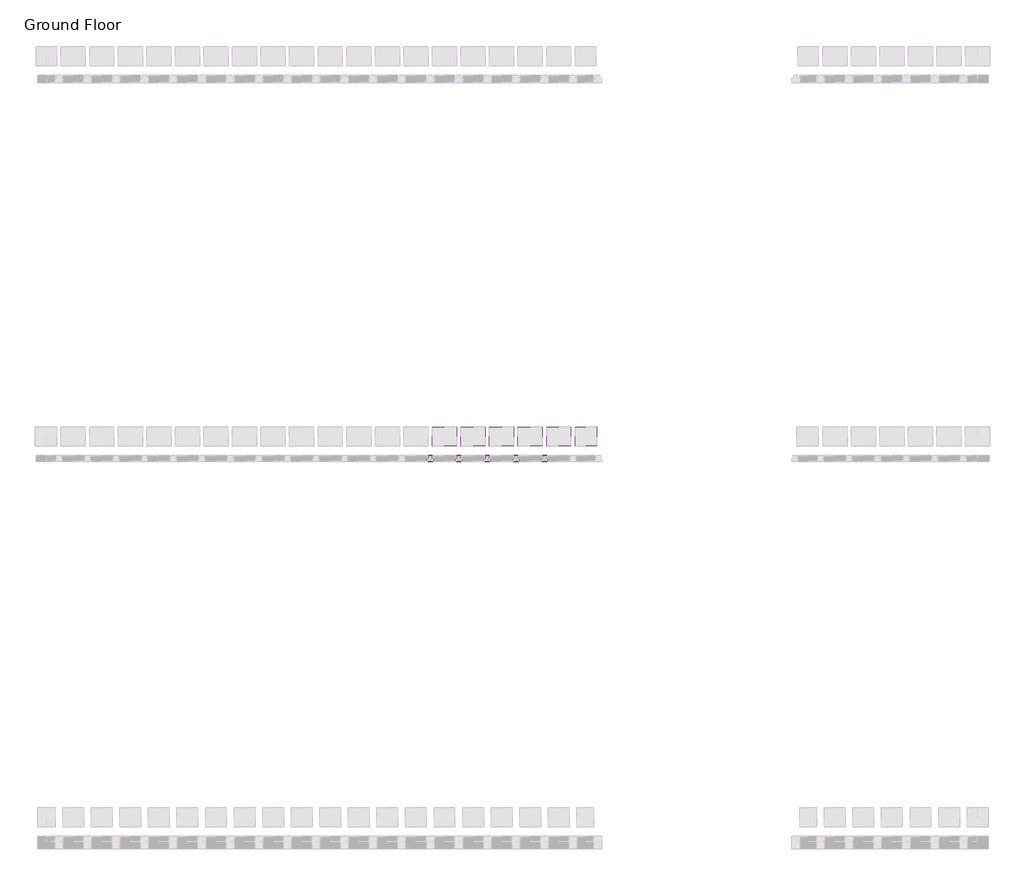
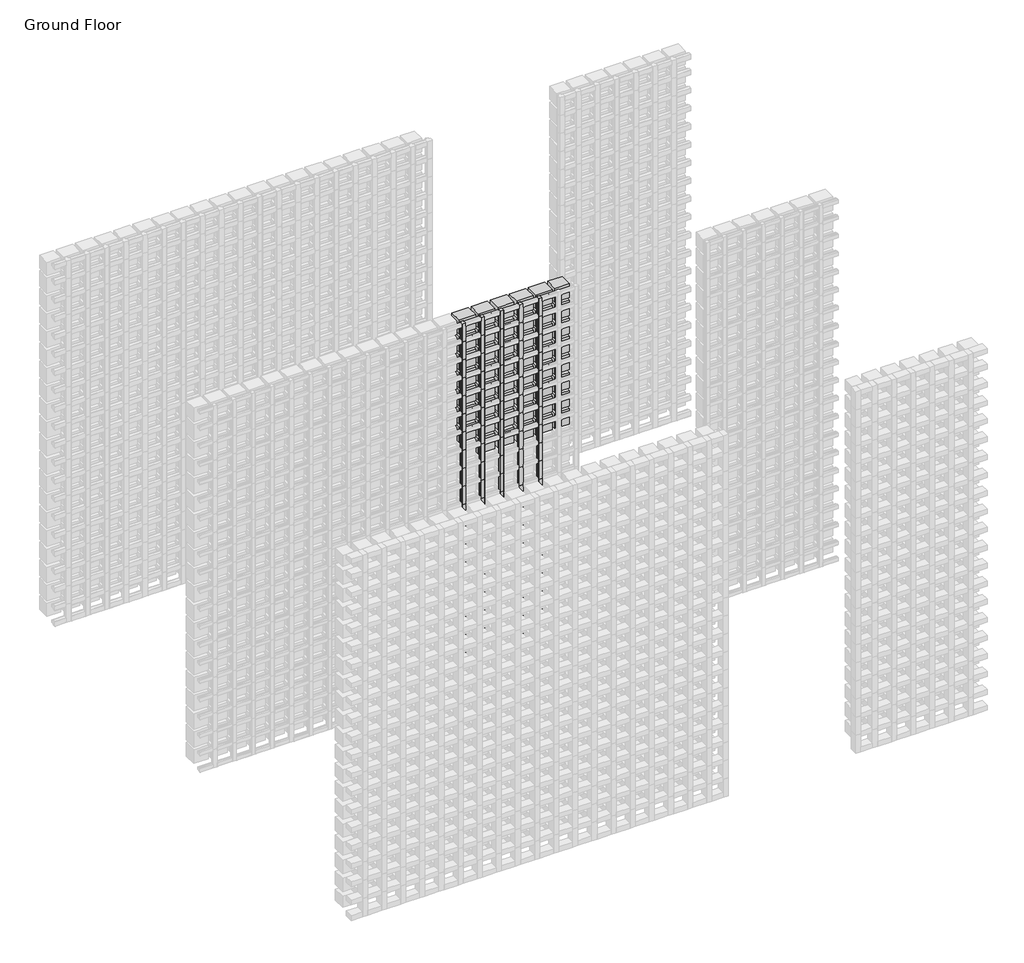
# One storey, part 133 of 350: 95 members, 47 plates.
"""IFC4 building model written with IfcOpenShell, lengths in millimetres."""

from ifc_helpers import new_model, si_unit, origin, place, context, project, spatial, transform, mapped, element, save
from components import rectangular_mullion_f1976eb1, empty_system_panel_empty_5a3607ba, empty_system_panel_empty_babc703c, empty_system_panel_empty_56815599, empty_system_panel_empty_50ac6329

model = new_model("IFC4")

# Units and contexts
model_context = context("Model", 3, world=origin())
ifc_project = project(units=[si_unit("LENGTHUNIT", "METRE", prefix="MILLI")], contexts=[model_context])

# Site, building, storey
site = spatial("IfcSite", under=ifc_project)
building = spatial("IfcBuilding", under=site)
storey = spatial("IfcBuildingStorey", under=building, Name="Ground Floor", Elevation=0.0)

# Members
placement = place(None, origin())
rectangular_mullion_shape = rectangular_mullion_f1976eb1(model_context)
element("IfcMember", 1, ObjectType="Rectangular Mullion : Batten_Timber_Modinex_Austratus_Grid_Fin_30x30_Blackbutt", at=placement, inside=storey, context=model_context, shape_type="MappedRepresentation", body=[
    mapped(rectangular_mullion_shape, transform((8016.4361642, 42968.2978302, 150.0), x_axis=(1.0, 0.0, 0.0), y_axis=(0.0, -1.0, 0.0), z_axis=(0.0, 0.0, -1.0))),
])
element("IfcMember", 2, ObjectType="Rectangular Mullion : Batten_Timber_Modinex_Austratus_Grid_Fin_30x30_Blackbutt", at=placement, inside=storey, context=model_context, shape_type="MappedRepresentation", body=[
    mapped(rectangular_mullion_shape, transform((8016.4361642, 42968.2978302, 300.0), x_axis=(1.0, 0.0, 0.0), y_axis=(0.0, -1.0, 0.0), z_axis=(0.0, 0.0, -1.0))),
])
element("IfcMember", 3, ObjectType="Rectangular Mullion : Batten_Timber_Modinex_Austratus_Grid_Fin_30x30_Blackbutt", at=placement, inside=storey, context=model_context, shape_type="MappedRepresentation", body=[
    mapped(rectangular_mullion_shape, transform((8016.4361642, 42968.2978302, 450.0), x_axis=(1.0, 0.0, 0.0), y_axis=(0.0, -1.0, 0.0), z_axis=(0.0, 0.0, -1.0))),
])
element("IfcMember", 4, ObjectType="Rectangular Mullion : Batten_Timber_Modinex_Austratus_Grid_Fin_30x30_Blackbutt", at=placement, inside=storey, context=model_context, shape_type="MappedRepresentation", body=[
    mapped(rectangular_mullion_shape, transform((8016.4361642, 42968.2978302, 600.0), x_axis=(1.0, 0.0, 0.0), y_axis=(0.0, -1.0, 0.0), z_axis=(0.0, 0.0, -1.0))),
])
element("IfcMember", 5, ObjectType="Rectangular Mullion : Batten_Timber_Modinex_Austratus_Grid_Fin_30x30_Blackbutt", at=placement, inside=storey, context=model_context, shape_type="MappedRepresentation", body=[
    mapped(rectangular_mullion_shape, transform((8016.4361642, 42968.2978302, 750.0), x_axis=(1.0, 0.0, 0.0), y_axis=(0.0, -1.0, 0.0), z_axis=(0.0, 0.0, -1.0))),
])
element("IfcMember", 6, ObjectType="Rectangular Mullion : Batten_Timber_Modinex_Austratus_Grid_Fin_30x30_Blackbutt", at=placement, inside=storey, context=model_context, shape_type="MappedRepresentation", body=[
    mapped(rectangular_mullion_shape, transform((8016.4361642, 42968.2978302, 900.0), x_axis=(1.0, 0.0, 0.0), y_axis=(0.0, -1.0, 0.0), z_axis=(0.0, 0.0, -1.0))),
])
element("IfcMember", 7, ObjectType="Rectangular Mullion : Batten_Timber_Modinex_Austratus_Grid_Fin_30x30_Blackbutt", at=placement, inside=storey, context=model_context, shape_type="MappedRepresentation", body=[
    mapped(rectangular_mullion_shape, transform((8016.4361642, 42968.2978302, 1050.0), x_axis=(1.0, 0.0, 0.0), y_axis=(0.0, -1.0, 0.0), z_axis=(0.0, 0.0, -1.0))),
])
element("IfcMember", 8, ObjectType="Rectangular Mullion : Batten_Timber_Modinex_Austratus_Grid_Fin_30x30_Blackbutt", at=placement, inside=storey, context=model_context, shape_type="MappedRepresentation", body=[
    mapped(rectangular_mullion_shape, transform((8016.4361642, 42968.2978302, 1200.0), x_axis=(1.0, 0.0, 0.0), y_axis=(0.0, -1.0, 0.0), z_axis=(0.0, 0.0, -1.0))),
])
element("IfcMember", 9, ObjectType="Rectangular Mullion : Batten_Timber_Modinex_Austratus_Grid_Fin_30x30_Blackbutt", at=placement, inside=storey, context=model_context, shape_type="MappedRepresentation", body=[
    mapped(rectangular_mullion_shape, transform((8016.4361642, 42968.2978302, 1350.0), x_axis=(1.0, 0.0, 0.0), y_axis=(0.0, -1.0, 0.0), z_axis=(0.0, 0.0, -1.0))),
])
element("IfcMember", 10, ObjectType="Rectangular Mullion : Batten_Timber_Modinex_Austratus_Grid_Fin_30x30_Blackbutt", at=placement, inside=storey, context=model_context, shape_type="MappedRepresentation", body=[
    mapped(rectangular_mullion_shape, transform((8016.4361642, 42968.2978302, 1500.0), x_axis=(1.0, 0.0, 0.0), y_axis=(0.0, -1.0, 0.0), z_axis=(0.0, 0.0, -1.0))),
])
element("IfcMember", 11, ObjectType="Rectangular Mullion : Batten_Timber_Modinex_Austratus_Grid_Fin_30x30_Blackbutt", at=placement, inside=storey, context=model_context, shape_type="MappedRepresentation", body=[
    mapped(rectangular_mullion_shape, transform((8016.4361642, 42968.2978302, 1650.0), x_axis=(1.0, 0.0, 0.0), y_axis=(0.0, -1.0, 0.0), z_axis=(0.0, 0.0, -1.0))),
])
element("IfcMember", 12, ObjectType="Rectangular Mullion : Batten_Timber_Modinex_Austratus_Grid_Fin_30x30_Blackbutt", at=placement, inside=storey, context=model_context, shape_type="MappedRepresentation", body=[
    mapped(rectangular_mullion_shape, transform((8016.4361642, 42968.2978302, 1800.0), x_axis=(1.0, 0.0, 0.0), y_axis=(0.0, -1.0, 0.0), z_axis=(0.0, 0.0, -1.0))),
])
element("IfcMember", 13, ObjectType="Rectangular Mullion : Batten_Timber_Modinex_Austratus_Grid_Fin_30x30_Blackbutt", at=placement, inside=storey, context=model_context, shape_type="MappedRepresentation", body=[
    mapped(rectangular_mullion_shape, transform((8016.4361642, 42968.2978302, 1950.0), x_axis=(1.0, 0.0, 0.0), y_axis=(0.0, -1.0, 0.0), z_axis=(0.0, 0.0, -1.0))),
])
element("IfcMember", 14, ObjectType="Rectangular Mullion : Batten_Timber_Modinex_Austratus_Grid_Fin_30x30_Blackbutt", at=placement, inside=storey, context=model_context, shape_type="MappedRepresentation", body=[
    mapped(rectangular_mullion_shape, transform((8016.4361642, 42968.2978302, 2100.0), x_axis=(1.0, 0.0, 0.0), y_axis=(0.0, -1.0, 0.0), z_axis=(0.0, 0.0, -1.0))),
])
element("IfcMember", 15, ObjectType="Rectangular Mullion : Batten_Timber_Modinex_Austratus_Grid_Fin_30x30_Blackbutt", at=placement, inside=storey, context=model_context, shape_type="MappedRepresentation", body=[
    mapped(rectangular_mullion_shape, transform((8016.4361642, 42968.2978302, 2250.0), x_axis=(1.0, 0.0, 0.0), y_axis=(0.0, -1.0, 0.0), z_axis=(0.0, 0.0, -1.0))),
])
element("IfcMember", 16, ObjectType="Rectangular Mullion : Batten_Timber_Modinex_Austratus_Grid_Fin_30x30_Blackbutt", at=placement, inside=storey, context=model_context, shape_type="MappedRepresentation", body=[
    mapped(rectangular_mullion_shape, transform((8016.4361642, 42968.2978302, 2400.0), x_axis=(1.0, 0.0, 0.0), y_axis=(0.0, -1.0, 0.0), z_axis=(0.0, 0.0, -1.0))),
])
element("IfcMember", 17, ObjectType="Rectangular Mullion : Batten_Timber_Modinex_Austratus_Grid_Fin_30x30_Blackbutt", at=placement, inside=storey, context=model_context, shape_type="MappedRepresentation", body=[
    mapped(rectangular_mullion_shape, transform((8016.4361642, 42968.2978302, 2550.0), x_axis=(1.0, 0.0, 0.0), y_axis=(0.0, -1.0, 0.0), z_axis=(0.0, 0.0, -1.0))),
])
element("IfcMember", 18, ObjectType="Rectangular Mullion : Batten_Timber_Modinex_Austratus_Grid_Fin_30x30_Blackbutt", at=placement, inside=storey, context=model_context, shape_type="MappedRepresentation", body=[
    mapped(rectangular_mullion_shape, transform((8016.4361642, 42968.2978302, 2700.0), x_axis=(1.0, 0.0, 0.0), y_axis=(0.0, -1.0, 0.0), z_axis=(0.0, 0.0, -1.0))),
])
element("IfcMember", 19, ObjectType="Rectangular Mullion : Batten_Timber_Modinex_Austratus_Grid_Fin_30x30_Blackbutt", at=placement, inside=storey, context=model_context, shape_type="MappedRepresentation", body=[
    mapped(rectangular_mullion_shape, transform((8166.4361642, 42968.2978302, 150.0), x_axis=(1.0, 0.0, 0.0), y_axis=(0.0, -1.0, 0.0), z_axis=(0.0, 0.0, -1.0))),
])
element("IfcMember", 20, ObjectType="Rectangular Mullion : Batten_Timber_Modinex_Austratus_Grid_Fin_30x30_Blackbutt", at=placement, inside=storey, context=model_context, shape_type="MappedRepresentation", body=[
    mapped(rectangular_mullion_shape, transform((8166.4361642, 42968.2978302, 300.0), x_axis=(1.0, 0.0, 0.0), y_axis=(0.0, -1.0, 0.0), z_axis=(0.0, 0.0, -1.0))),
])
element("IfcMember", 21, ObjectType="Rectangular Mullion : Batten_Timber_Modinex_Austratus_Grid_Fin_30x30_Blackbutt", at=placement, inside=storey, context=model_context, shape_type="MappedRepresentation", body=[
    mapped(rectangular_mullion_shape, transform((8166.4361642, 42968.2978302, 450.0), x_axis=(1.0, 0.0, 0.0), y_axis=(0.0, -1.0, 0.0), z_axis=(0.0, 0.0, -1.0))),
])
element("IfcMember", 22, ObjectType="Rectangular Mullion : Batten_Timber_Modinex_Austratus_Grid_Fin_30x30_Blackbutt", at=placement, inside=storey, context=model_context, shape_type="MappedRepresentation", body=[
    mapped(rectangular_mullion_shape, transform((8166.4361642, 42968.2978302, 600.0), x_axis=(1.0, 0.0, 0.0), y_axis=(0.0, -1.0, 0.0), z_axis=(0.0, 0.0, -1.0))),
])
element("IfcMember", 23, ObjectType="Rectangular Mullion : Batten_Timber_Modinex_Austratus_Grid_Fin_30x30_Blackbutt", at=placement, inside=storey, context=model_context, shape_type="MappedRepresentation", body=[
    mapped(rectangular_mullion_shape, transform((8166.4361642, 42968.2978302, 750.0), x_axis=(1.0, 0.0, 0.0), y_axis=(0.0, -1.0, 0.0), z_axis=(0.0, 0.0, -1.0))),
])
element("IfcMember", 24, ObjectType="Rectangular Mullion : Batten_Timber_Modinex_Austratus_Grid_Fin_30x30_Blackbutt", at=placement, inside=storey, context=model_context, shape_type="MappedRepresentation", body=[
    mapped(rectangular_mullion_shape, transform((8166.4361642, 42968.2978302, 900.0), x_axis=(1.0, 0.0, 0.0), y_axis=(0.0, -1.0, 0.0), z_axis=(0.0, 0.0, -1.0))),
])
element("IfcMember", 25, ObjectType="Rectangular Mullion : Batten_Timber_Modinex_Austratus_Grid_Fin_30x30_Blackbutt", at=placement, inside=storey, context=model_context, shape_type="MappedRepresentation", body=[
    mapped(rectangular_mullion_shape, transform((8166.4361642, 42968.2978302, 1050.0), x_axis=(1.0, 0.0, 0.0), y_axis=(0.0, -1.0, 0.0), z_axis=(0.0, 0.0, -1.0))),
])
element("IfcMember", 26, ObjectType="Rectangular Mullion : Batten_Timber_Modinex_Austratus_Grid_Fin_30x30_Blackbutt", at=placement, inside=storey, context=model_context, shape_type="MappedRepresentation", body=[
    mapped(rectangular_mullion_shape, transform((8166.4361642, 42968.2978302, 1200.0), x_axis=(1.0, 0.0, 0.0), y_axis=(0.0, -1.0, 0.0), z_axis=(0.0, 0.0, -1.0))),
])
element("IfcMember", 27, ObjectType="Rectangular Mullion : Batten_Timber_Modinex_Austratus_Grid_Fin_30x30_Blackbutt", at=placement, inside=storey, context=model_context, shape_type="MappedRepresentation", body=[
    mapped(rectangular_mullion_shape, transform((8166.4361642, 42968.2978302, 1350.0), x_axis=(1.0, 0.0, 0.0), y_axis=(0.0, -1.0, 0.0), z_axis=(0.0, 0.0, -1.0))),
])
element("IfcMember", 28, ObjectType="Rectangular Mullion : Batten_Timber_Modinex_Austratus_Grid_Fin_30x30_Blackbutt", at=placement, inside=storey, context=model_context, shape_type="MappedRepresentation", body=[
    mapped(rectangular_mullion_shape, transform((8166.4361642, 42968.2978302, 1500.0), x_axis=(1.0, 0.0, 0.0), y_axis=(0.0, -1.0, 0.0), z_axis=(0.0, 0.0, -1.0))),
])
element("IfcMember", 29, ObjectType="Rectangular Mullion : Batten_Timber_Modinex_Austratus_Grid_Fin_30x30_Blackbutt", at=placement, inside=storey, context=model_context, shape_type="MappedRepresentation", body=[
    mapped(rectangular_mullion_shape, transform((8166.4361642, 42968.2978302, 1650.0), x_axis=(1.0, 0.0, 0.0), y_axis=(0.0, -1.0, 0.0), z_axis=(0.0, 0.0, -1.0))),
])
element("IfcMember", 30, ObjectType="Rectangular Mullion : Batten_Timber_Modinex_Austratus_Grid_Fin_30x30_Blackbutt", at=placement, inside=storey, context=model_context, shape_type="MappedRepresentation", body=[
    mapped(rectangular_mullion_shape, transform((8166.4361642, 42968.2978302, 1800.0), x_axis=(1.0, 0.0, 0.0), y_axis=(0.0, -1.0, 0.0), z_axis=(0.0, 0.0, -1.0))),
])
element("IfcMember", 31, ObjectType="Rectangular Mullion : Batten_Timber_Modinex_Austratus_Grid_Fin_30x30_Blackbutt", at=placement, inside=storey, context=model_context, shape_type="MappedRepresentation", body=[
    mapped(rectangular_mullion_shape, transform((8166.4361642, 42968.2978302, 1950.0), x_axis=(1.0, 0.0, 0.0), y_axis=(0.0, -1.0, 0.0), z_axis=(0.0, 0.0, -1.0))),
])
element("IfcMember", 32, ObjectType="Rectangular Mullion : Batten_Timber_Modinex_Austratus_Grid_Fin_30x30_Blackbutt", at=placement, inside=storey, context=model_context, shape_type="MappedRepresentation", body=[
    mapped(rectangular_mullion_shape, transform((8166.4361642, 42968.2978302, 2100.0), x_axis=(1.0, 0.0, 0.0), y_axis=(0.0, -1.0, 0.0), z_axis=(0.0, 0.0, -1.0))),
])
element("IfcMember", 33, ObjectType="Rectangular Mullion : Batten_Timber_Modinex_Austratus_Grid_Fin_30x30_Blackbutt", at=placement, inside=storey, context=model_context, shape_type="MappedRepresentation", body=[
    mapped(rectangular_mullion_shape, transform((8166.4361642, 42968.2978302, 2250.0), x_axis=(1.0, 0.0, 0.0), y_axis=(0.0, -1.0, 0.0), z_axis=(0.0, 0.0, -1.0))),
])
element("IfcMember", 34, ObjectType="Rectangular Mullion : Batten_Timber_Modinex_Austratus_Grid_Fin_30x30_Blackbutt", at=placement, inside=storey, context=model_context, shape_type="MappedRepresentation", body=[
    mapped(rectangular_mullion_shape, transform((8166.4361642, 42968.2978302, 2400.0), x_axis=(1.0, 0.0, 0.0), y_axis=(0.0, -1.0, 0.0), z_axis=(0.0, 0.0, -1.0))),
])
element("IfcMember", 35, ObjectType="Rectangular Mullion : Batten_Timber_Modinex_Austratus_Grid_Fin_30x30_Blackbutt", at=placement, inside=storey, context=model_context, shape_type="MappedRepresentation", body=[
    mapped(rectangular_mullion_shape, transform((8166.4361642, 42968.2978302, 2550.0), x_axis=(1.0, 0.0, 0.0), y_axis=(0.0, -1.0, 0.0), z_axis=(0.0, 0.0, -1.0))),
])
element("IfcMember", 36, ObjectType="Rectangular Mullion : Batten_Timber_Modinex_Austratus_Grid_Fin_30x30_Blackbutt", at=placement, inside=storey, context=model_context, shape_type="MappedRepresentation", body=[
    mapped(rectangular_mullion_shape, transform((8166.4361642, 42968.2978302, 2700.0), x_axis=(1.0, 0.0, 0.0), y_axis=(0.0, -1.0, 0.0), z_axis=(0.0, 0.0, -1.0))),
])
element("IfcMember", 37, ObjectType="Rectangular Mullion : Batten_Timber_Modinex_Austratus_Grid_Fin_30x30_Blackbutt", at=placement, inside=storey, context=model_context, shape_type="MappedRepresentation", body=[
    mapped(rectangular_mullion_shape, transform((8316.4361642, 42968.2978302, 150.0), x_axis=(1.0, 0.0, 0.0), y_axis=(0.0, -1.0, 0.0), z_axis=(0.0, 0.0, -1.0))),
])
element("IfcMember", 38, ObjectType="Rectangular Mullion : Batten_Timber_Modinex_Austratus_Grid_Fin_30x30_Blackbutt", at=placement, inside=storey, context=model_context, shape_type="MappedRepresentation", body=[
    mapped(rectangular_mullion_shape, transform((8316.4361642, 42968.2978302, 300.0), x_axis=(1.0, 0.0, 0.0), y_axis=(0.0, -1.0, 0.0), z_axis=(0.0, 0.0, -1.0))),
])
element("IfcMember", 39, ObjectType="Rectangular Mullion : Batten_Timber_Modinex_Austratus_Grid_Fin_30x30_Blackbutt", at=placement, inside=storey, context=model_context, shape_type="MappedRepresentation", body=[
    mapped(rectangular_mullion_shape, transform((8316.4361642, 42968.2978302, 450.0), x_axis=(1.0, 0.0, 0.0), y_axis=(0.0, -1.0, 0.0), z_axis=(0.0, 0.0, -1.0))),
])
element("IfcMember", 40, ObjectType="Rectangular Mullion : Batten_Timber_Modinex_Austratus_Grid_Fin_30x30_Blackbutt", at=placement, inside=storey, context=model_context, shape_type="MappedRepresentation", body=[
    mapped(rectangular_mullion_shape, transform((8316.4361642, 42968.2978302, 600.0), x_axis=(1.0, 0.0, 0.0), y_axis=(0.0, -1.0, 0.0), z_axis=(0.0, 0.0, -1.0))),
])
element("IfcMember", 41, ObjectType="Rectangular Mullion : Batten_Timber_Modinex_Austratus_Grid_Fin_30x30_Blackbutt", at=placement, inside=storey, context=model_context, shape_type="MappedRepresentation", body=[
    mapped(rectangular_mullion_shape, transform((8316.4361642, 42968.2978302, 750.0), x_axis=(1.0, 0.0, 0.0), y_axis=(0.0, -1.0, 0.0), z_axis=(0.0, 0.0, -1.0))),
])
element("IfcMember", 42, ObjectType="Rectangular Mullion : Batten_Timber_Modinex_Austratus_Grid_Fin_30x30_Blackbutt", at=placement, inside=storey, context=model_context, shape_type="MappedRepresentation", body=[
    mapped(rectangular_mullion_shape, transform((8316.4361642, 42968.2978302, 900.0), x_axis=(1.0, 0.0, 0.0), y_axis=(0.0, -1.0, 0.0), z_axis=(0.0, 0.0, -1.0))),
])
element("IfcMember", 43, ObjectType="Rectangular Mullion : Batten_Timber_Modinex_Austratus_Grid_Fin_30x30_Blackbutt", at=placement, inside=storey, context=model_context, shape_type="MappedRepresentation", body=[
    mapped(rectangular_mullion_shape, transform((8316.4361642, 42968.2978302, 1050.0), x_axis=(1.0, 0.0, 0.0), y_axis=(0.0, -1.0, 0.0), z_axis=(0.0, 0.0, -1.0))),
])
element("IfcMember", 44, ObjectType="Rectangular Mullion : Batten_Timber_Modinex_Austratus_Grid_Fin_30x30_Blackbutt", at=placement, inside=storey, context=model_context, shape_type="MappedRepresentation", body=[
    mapped(rectangular_mullion_shape, transform((8316.4361642, 42968.2978302, 1200.0), x_axis=(1.0, 0.0, 0.0), y_axis=(0.0, -1.0, 0.0), z_axis=(0.0, 0.0, -1.0))),
])
element("IfcMember", 45, ObjectType="Rectangular Mullion : Batten_Timber_Modinex_Austratus_Grid_Fin_30x30_Blackbutt", at=placement, inside=storey, context=model_context, shape_type="MappedRepresentation", body=[
    mapped(rectangular_mullion_shape, transform((8316.4361642, 42968.2978302, 1350.0), x_axis=(1.0, 0.0, 0.0), y_axis=(0.0, -1.0, 0.0), z_axis=(0.0, 0.0, -1.0))),
])
element("IfcMember", 46, ObjectType="Rectangular Mullion : Batten_Timber_Modinex_Austratus_Grid_Fin_30x30_Blackbutt", at=placement, inside=storey, context=model_context, shape_type="MappedRepresentation", body=[
    mapped(rectangular_mullion_shape, transform((8316.4361642, 42968.2978302, 1500.0), x_axis=(1.0, 0.0, 0.0), y_axis=(0.0, -1.0, 0.0), z_axis=(0.0, 0.0, -1.0))),
])
element("IfcMember", 47, ObjectType="Rectangular Mullion : Batten_Timber_Modinex_Austratus_Grid_Fin_30x30_Blackbutt", at=placement, inside=storey, context=model_context, shape_type="MappedRepresentation", body=[
    mapped(rectangular_mullion_shape, transform((8316.4361642, 42968.2978302, 1650.0), x_axis=(1.0, 0.0, 0.0), y_axis=(0.0, -1.0, 0.0), z_axis=(0.0, 0.0, -1.0))),
])
element("IfcMember", 48, ObjectType="Rectangular Mullion : Batten_Timber_Modinex_Austratus_Grid_Fin_30x30_Blackbutt", at=placement, inside=storey, context=model_context, shape_type="MappedRepresentation", body=[
    mapped(rectangular_mullion_shape, transform((8316.4361642, 42968.2978302, 1800.0), x_axis=(1.0, 0.0, 0.0), y_axis=(0.0, -1.0, 0.0), z_axis=(0.0, 0.0, -1.0))),
])
element("IfcMember", 49, ObjectType="Rectangular Mullion : Batten_Timber_Modinex_Austratus_Grid_Fin_30x30_Blackbutt", at=placement, inside=storey, context=model_context, shape_type="MappedRepresentation", body=[
    mapped(rectangular_mullion_shape, transform((8316.4361642, 42968.2978302, 1950.0), x_axis=(1.0, 0.0, 0.0), y_axis=(0.0, -1.0, 0.0), z_axis=(0.0, 0.0, -1.0))),
])
element("IfcMember", 50, ObjectType="Rectangular Mullion : Batten_Timber_Modinex_Austratus_Grid_Fin_30x30_Blackbutt", at=placement, inside=storey, context=model_context, shape_type="MappedRepresentation", body=[
    mapped(rectangular_mullion_shape, transform((8316.4361642, 42968.2978302, 2100.0), x_axis=(1.0, 0.0, 0.0), y_axis=(0.0, -1.0, 0.0), z_axis=(0.0, 0.0, -1.0))),
])
element("IfcMember", 51, ObjectType="Rectangular Mullion : Batten_Timber_Modinex_Austratus_Grid_Fin_30x30_Blackbutt", at=placement, inside=storey, context=model_context, shape_type="MappedRepresentation", body=[
    mapped(rectangular_mullion_shape, transform((8316.4361642, 42968.2978302, 2250.0), x_axis=(1.0, 0.0, 0.0), y_axis=(0.0, -1.0, 0.0), z_axis=(0.0, 0.0, -1.0))),
])
element("IfcMember", 52, ObjectType="Rectangular Mullion : Batten_Timber_Modinex_Austratus_Grid_Fin_30x30_Blackbutt", at=placement, inside=storey, context=model_context, shape_type="MappedRepresentation", body=[
    mapped(rectangular_mullion_shape, transform((8316.4361642, 42968.2978302, 2400.0), x_axis=(1.0, 0.0, 0.0), y_axis=(0.0, -1.0, 0.0), z_axis=(0.0, 0.0, -1.0))),
])
element("IfcMember", 53, ObjectType="Rectangular Mullion : Batten_Timber_Modinex_Austratus_Grid_Fin_30x30_Blackbutt", at=placement, inside=storey, context=model_context, shape_type="MappedRepresentation", body=[
    mapped(rectangular_mullion_shape, transform((8316.4361642, 42968.2978302, 2550.0), x_axis=(1.0, 0.0, 0.0), y_axis=(0.0, -1.0, 0.0), z_axis=(0.0, 0.0, -1.0))),
])
element("IfcMember", 54, ObjectType="Rectangular Mullion : Batten_Timber_Modinex_Austratus_Grid_Fin_30x30_Blackbutt", at=placement, inside=storey, context=model_context, shape_type="MappedRepresentation", body=[
    mapped(rectangular_mullion_shape, transform((8316.4361642, 42968.2978302, 2700.0), x_axis=(1.0, 0.0, 0.0), y_axis=(0.0, -1.0, 0.0), z_axis=(0.0, 0.0, -1.0))),
])
element("IfcMember", 55, ObjectType="Rectangular Mullion : Batten_Timber_Modinex_Austratus_Grid_Fin_30x30_Blackbutt", at=placement, inside=storey, context=model_context, shape_type="MappedRepresentation", body=[
    mapped(rectangular_mullion_shape, transform((8466.4361642, 42968.2978302, 150.0), x_axis=(1.0, 0.0, 0.0), y_axis=(0.0, -1.0, 0.0), z_axis=(0.0, 0.0, -1.0))),
])
element("IfcMember", 56, ObjectType="Rectangular Mullion : Batten_Timber_Modinex_Austratus_Grid_Fin_30x30_Blackbutt", at=placement, inside=storey, context=model_context, shape_type="MappedRepresentation", body=[
    mapped(rectangular_mullion_shape, transform((8466.4361642, 42968.2978302, 300.0), x_axis=(1.0, 0.0, 0.0), y_axis=(0.0, -1.0, 0.0), z_axis=(0.0, 0.0, -1.0))),
])
element("IfcMember", 57, ObjectType="Rectangular Mullion : Batten_Timber_Modinex_Austratus_Grid_Fin_30x30_Blackbutt", at=placement, inside=storey, context=model_context, shape_type="MappedRepresentation", body=[
    mapped(rectangular_mullion_shape, transform((8466.4361642, 42968.2978302, 450.0), x_axis=(1.0, 0.0, 0.0), y_axis=(0.0, -1.0, 0.0), z_axis=(0.0, 0.0, -1.0))),
])
element("IfcMember", 58, ObjectType="Rectangular Mullion : Batten_Timber_Modinex_Austratus_Grid_Fin_30x30_Blackbutt", at=placement, inside=storey, context=model_context, shape_type="MappedRepresentation", body=[
    mapped(rectangular_mullion_shape, transform((8466.4361642, 42968.2978302, 600.0), x_axis=(1.0, 0.0, 0.0), y_axis=(0.0, -1.0, 0.0), z_axis=(0.0, 0.0, -1.0))),
])
element("IfcMember", 59, ObjectType="Rectangular Mullion : Batten_Timber_Modinex_Austratus_Grid_Fin_30x30_Blackbutt", at=placement, inside=storey, context=model_context, shape_type="MappedRepresentation", body=[
    mapped(rectangular_mullion_shape, transform((8466.4361642, 42968.2978302, 750.0), x_axis=(1.0, 0.0, 0.0), y_axis=(0.0, -1.0, 0.0), z_axis=(0.0, 0.0, -1.0))),
])
element("IfcMember", 60, ObjectType="Rectangular Mullion : Batten_Timber_Modinex_Austratus_Grid_Fin_30x30_Blackbutt", at=placement, inside=storey, context=model_context, shape_type="MappedRepresentation", body=[
    mapped(rectangular_mullion_shape, transform((8466.4361642, 42968.2978302, 900.0), x_axis=(1.0, 0.0, 0.0), y_axis=(0.0, -1.0, 0.0), z_axis=(0.0, 0.0, -1.0))),
])
element("IfcMember", 61, ObjectType="Rectangular Mullion : Batten_Timber_Modinex_Austratus_Grid_Fin_30x30_Blackbutt", at=placement, inside=storey, context=model_context, shape_type="MappedRepresentation", body=[
    mapped(rectangular_mullion_shape, transform((8466.4361642, 42968.2978302, 1050.0), x_axis=(1.0, 0.0, 0.0), y_axis=(0.0, -1.0, 0.0), z_axis=(0.0, 0.0, -1.0))),
])
element("IfcMember", 62, ObjectType="Rectangular Mullion : Batten_Timber_Modinex_Austratus_Grid_Fin_30x30_Blackbutt", at=placement, inside=storey, context=model_context, shape_type="MappedRepresentation", body=[
    mapped(rectangular_mullion_shape, transform((8466.4361642, 42968.2978302, 1200.0), x_axis=(1.0, 0.0, 0.0), y_axis=(0.0, -1.0, 0.0), z_axis=(0.0, 0.0, -1.0))),
])
element("IfcMember", 63, ObjectType="Rectangular Mullion : Batten_Timber_Modinex_Austratus_Grid_Fin_30x30_Blackbutt", at=placement, inside=storey, context=model_context, shape_type="MappedRepresentation", body=[
    mapped(rectangular_mullion_shape, transform((8466.4361642, 42968.2978302, 1350.0), x_axis=(1.0, 0.0, 0.0), y_axis=(0.0, -1.0, 0.0), z_axis=(0.0, 0.0, -1.0))),
])
element("IfcMember", 64, ObjectType="Rectangular Mullion : Batten_Timber_Modinex_Austratus_Grid_Fin_30x30_Blackbutt", at=placement, inside=storey, context=model_context, shape_type="MappedRepresentation", body=[
    mapped(rectangular_mullion_shape, transform((8466.4361642, 42968.2978302, 1500.0), x_axis=(1.0, 0.0, 0.0), y_axis=(0.0, -1.0, 0.0), z_axis=(0.0, 0.0, -1.0))),
])
element("IfcMember", 65, ObjectType="Rectangular Mullion : Batten_Timber_Modinex_Austratus_Grid_Fin_30x30_Blackbutt", at=placement, inside=storey, context=model_context, shape_type="MappedRepresentation", body=[
    mapped(rectangular_mullion_shape, transform((8466.4361642, 42968.2978302, 1650.0), x_axis=(1.0, 0.0, 0.0), y_axis=(0.0, -1.0, 0.0), z_axis=(0.0, 0.0, -1.0))),
])
element("IfcMember", 66, ObjectType="Rectangular Mullion : Batten_Timber_Modinex_Austratus_Grid_Fin_30x30_Blackbutt", at=placement, inside=storey, context=model_context, shape_type="MappedRepresentation", body=[
    mapped(rectangular_mullion_shape, transform((8466.4361642, 42968.2978302, 1800.0), x_axis=(1.0, 0.0, 0.0), y_axis=(0.0, -1.0, 0.0), z_axis=(0.0, 0.0, -1.0))),
])
element("IfcMember", 67, ObjectType="Rectangular Mullion : Batten_Timber_Modinex_Austratus_Grid_Fin_30x30_Blackbutt", at=placement, inside=storey, context=model_context, shape_type="MappedRepresentation", body=[
    mapped(rectangular_mullion_shape, transform((8466.4361642, 42968.2978302, 1950.0), x_axis=(1.0, 0.0, 0.0), y_axis=(0.0, -1.0, 0.0), z_axis=(0.0, 0.0, -1.0))),
])
element("IfcMember", 68, ObjectType="Rectangular Mullion : Batten_Timber_Modinex_Austratus_Grid_Fin_30x30_Blackbutt", at=placement, inside=storey, context=model_context, shape_type="MappedRepresentation", body=[
    mapped(rectangular_mullion_shape, transform((8466.4361642, 42968.2978302, 2100.0), x_axis=(1.0, 0.0, 0.0), y_axis=(0.0, -1.0, 0.0), z_axis=(0.0, 0.0, -1.0))),
])
element("IfcMember", 69, ObjectType="Rectangular Mullion : Batten_Timber_Modinex_Austratus_Grid_Fin_30x30_Blackbutt", at=placement, inside=storey, context=model_context, shape_type="MappedRepresentation", body=[
    mapped(rectangular_mullion_shape, transform((8466.4361642, 42968.2978302, 2250.0), x_axis=(1.0, 0.0, 0.0), y_axis=(0.0, -1.0, 0.0), z_axis=(0.0, 0.0, -1.0))),
])
element("IfcMember", 70, ObjectType="Rectangular Mullion : Batten_Timber_Modinex_Austratus_Grid_Fin_30x30_Blackbutt", at=placement, inside=storey, context=model_context, shape_type="MappedRepresentation", body=[
    mapped(rectangular_mullion_shape, transform((8466.4361642, 42968.2978302, 2400.0), x_axis=(1.0, 0.0, 0.0), y_axis=(0.0, -1.0, 0.0), z_axis=(0.0, 0.0, -1.0))),
])
element("IfcMember", 71, ObjectType="Rectangular Mullion : Batten_Timber_Modinex_Austratus_Grid_Fin_30x30_Blackbutt", at=placement, inside=storey, context=model_context, shape_type="MappedRepresentation", body=[
    mapped(rectangular_mullion_shape, transform((8466.4361642, 42968.2978302, 2550.0), x_axis=(1.0, 0.0, 0.0), y_axis=(0.0, -1.0, 0.0), z_axis=(0.0, 0.0, -1.0))),
])
element("IfcMember", 72, ObjectType="Rectangular Mullion : Batten_Timber_Modinex_Austratus_Grid_Fin_30x30_Blackbutt", at=placement, inside=storey, context=model_context, shape_type="MappedRepresentation", body=[
    mapped(rectangular_mullion_shape, transform((8466.4361642, 42968.2978302, 2700.0), x_axis=(1.0, 0.0, 0.0), y_axis=(0.0, -1.0, 0.0), z_axis=(0.0, 0.0, -1.0))),
])
element("IfcMember", 73, ObjectType="Rectangular Mullion : Batten_Timber_Modinex_Austratus_Grid_Fin_30x30_Blackbutt", at=placement, inside=storey, context=model_context, shape_type="MappedRepresentation", body=[
    mapped(rectangular_mullion_shape, transform((8616.4361642, 42968.2978302, 150.0), x_axis=(1.0, 0.0, 0.0), y_axis=(0.0, -1.0, 0.0), z_axis=(0.0, 0.0, -1.0))),
])
element("IfcMember", 74, ObjectType="Rectangular Mullion : Batten_Timber_Modinex_Austratus_Grid_Fin_30x30_Blackbutt", at=placement, inside=storey, context=model_context, shape_type="MappedRepresentation", body=[
    mapped(rectangular_mullion_shape, transform((8616.4361642, 42968.2978302, 300.0), x_axis=(1.0, 0.0, 0.0), y_axis=(0.0, -1.0, 0.0), z_axis=(0.0, 0.0, -1.0))),
])
element("IfcMember", 75, ObjectType="Rectangular Mullion : Batten_Timber_Modinex_Austratus_Grid_Fin_30x30_Blackbutt", at=placement, inside=storey, context=model_context, shape_type="MappedRepresentation", body=[
    mapped(rectangular_mullion_shape, transform((8616.4361642, 42968.2978302, 450.0), x_axis=(1.0, 0.0, 0.0), y_axis=(0.0, -1.0, 0.0), z_axis=(0.0, 0.0, -1.0))),
])
element("IfcMember", 76, ObjectType="Rectangular Mullion : Batten_Timber_Modinex_Austratus_Grid_Fin_30x30_Blackbutt", at=placement, inside=storey, context=model_context, shape_type="MappedRepresentation", body=[
    mapped(rectangular_mullion_shape, transform((8616.4361642, 42968.2978302, 600.0), x_axis=(1.0, 0.0, 0.0), y_axis=(0.0, -1.0, 0.0), z_axis=(0.0, 0.0, -1.0))),
])
element("IfcMember", 77, ObjectType="Rectangular Mullion : Batten_Timber_Modinex_Austratus_Grid_Fin_30x30_Blackbutt", at=placement, inside=storey, context=model_context, shape_type="MappedRepresentation", body=[
    mapped(rectangular_mullion_shape, transform((8616.4361642, 42968.2978302, 750.0), x_axis=(1.0, 0.0, 0.0), y_axis=(0.0, -1.0, 0.0), z_axis=(0.0, 0.0, -1.0))),
])
element("IfcMember", 78, ObjectType="Rectangular Mullion : Batten_Timber_Modinex_Austratus_Grid_Fin_30x30_Blackbutt", at=placement, inside=storey, context=model_context, shape_type="MappedRepresentation", body=[
    mapped(rectangular_mullion_shape, transform((8616.4361642, 42968.2978302, 900.0), x_axis=(1.0, 0.0, 0.0), y_axis=(0.0, -1.0, 0.0), z_axis=(0.0, 0.0, -1.0))),
])
element("IfcMember", 79, ObjectType="Rectangular Mullion : Batten_Timber_Modinex_Austratus_Grid_Fin_30x30_Blackbutt", at=placement, inside=storey, context=model_context, shape_type="MappedRepresentation", body=[
    mapped(rectangular_mullion_shape, transform((8616.4361642, 42968.2978302, 1050.0), x_axis=(1.0, 0.0, 0.0), y_axis=(0.0, -1.0, 0.0), z_axis=(0.0, 0.0, -1.0))),
])
element("IfcMember", 80, ObjectType="Rectangular Mullion : Batten_Timber_Modinex_Austratus_Grid_Fin_30x30_Blackbutt", at=placement, inside=storey, context=model_context, shape_type="MappedRepresentation", body=[
    mapped(rectangular_mullion_shape, transform((8616.4361642, 42968.2978302, 1200.0), x_axis=(1.0, 0.0, 0.0), y_axis=(0.0, -1.0, 0.0), z_axis=(0.0, 0.0, -1.0))),
])
element("IfcMember", 81, ObjectType="Rectangular Mullion : Batten_Timber_Modinex_Austratus_Grid_Fin_30x30_Blackbutt", at=placement, inside=storey, context=model_context, shape_type="MappedRepresentation", body=[
    mapped(rectangular_mullion_shape, transform((8616.4361642, 42968.2978302, 1350.0), x_axis=(1.0, 0.0, 0.0), y_axis=(0.0, -1.0, 0.0), z_axis=(0.0, 0.0, -1.0))),
])
element("IfcMember", 82, ObjectType="Rectangular Mullion : Batten_Timber_Modinex_Austratus_Grid_Fin_30x30_Blackbutt", at=placement, inside=storey, context=model_context, shape_type="MappedRepresentation", body=[
    mapped(rectangular_mullion_shape, transform((8616.4361642, 42968.2978302, 1500.0), x_axis=(1.0, 0.0, 0.0), y_axis=(0.0, -1.0, 0.0), z_axis=(0.0, 0.0, -1.0))),
])
element("IfcMember", 83, ObjectType="Rectangular Mullion : Batten_Timber_Modinex_Austratus_Grid_Fin_30x30_Blackbutt", at=placement, inside=storey, context=model_context, shape_type="MappedRepresentation", body=[
    mapped(rectangular_mullion_shape, transform((8616.4361642, 42968.2978302, 1650.0), x_axis=(1.0, 0.0, 0.0), y_axis=(0.0, -1.0, 0.0), z_axis=(0.0, 0.0, -1.0))),
])
element("IfcMember", 84, ObjectType="Rectangular Mullion : Batten_Timber_Modinex_Austratus_Grid_Fin_30x30_Blackbutt", at=placement, inside=storey, context=model_context, shape_type="MappedRepresentation", body=[
    mapped(rectangular_mullion_shape, transform((8616.4361642, 42968.2978302, 1800.0), x_axis=(1.0, 0.0, 0.0), y_axis=(0.0, -1.0, 0.0), z_axis=(0.0, 0.0, -1.0))),
])
element("IfcMember", 85, ObjectType="Rectangular Mullion : Batten_Timber_Modinex_Austratus_Grid_Fin_30x30_Blackbutt", at=placement, inside=storey, context=model_context, shape_type="MappedRepresentation", body=[
    mapped(rectangular_mullion_shape, transform((8616.4361642, 42968.2978302, 1950.0), x_axis=(1.0, 0.0, 0.0), y_axis=(0.0, -1.0, 0.0), z_axis=(0.0, 0.0, -1.0))),
])
element("IfcMember", 86, ObjectType="Rectangular Mullion : Batten_Timber_Modinex_Austratus_Grid_Fin_30x30_Blackbutt", at=placement, inside=storey, context=model_context, shape_type="MappedRepresentation", body=[
    mapped(rectangular_mullion_shape, transform((8616.4361642, 42968.2978302, 2100.0), x_axis=(1.0, 0.0, 0.0), y_axis=(0.0, -1.0, 0.0), z_axis=(0.0, 0.0, -1.0))),
])
element("IfcMember", 87, ObjectType="Rectangular Mullion : Batten_Timber_Modinex_Austratus_Grid_Fin_30x30_Blackbutt", at=placement, inside=storey, context=model_context, shape_type="MappedRepresentation", body=[
    mapped(rectangular_mullion_shape, transform((8616.4361642, 42968.2978302, 2250.0), x_axis=(1.0, 0.0, 0.0), y_axis=(0.0, -1.0, 0.0), z_axis=(0.0, 0.0, -1.0))),
])
element("IfcMember", 88, ObjectType="Rectangular Mullion : Batten_Timber_Modinex_Austratus_Grid_Fin_30x30_Blackbutt", at=placement, inside=storey, context=model_context, shape_type="MappedRepresentation", body=[
    mapped(rectangular_mullion_shape, transform((8616.4361642, 42968.2978302, 2400.0), x_axis=(1.0, 0.0, 0.0), y_axis=(0.0, -1.0, 0.0), z_axis=(0.0, 0.0, -1.0))),
])
element("IfcMember", 89, ObjectType="Rectangular Mullion : Batten_Timber_Modinex_Austratus_Grid_Fin_30x30_Blackbutt", at=placement, inside=storey, context=model_context, shape_type="MappedRepresentation", body=[
    mapped(rectangular_mullion_shape, transform((8616.4361642, 42968.2978302, 2550.0), x_axis=(1.0, 0.0, 0.0), y_axis=(0.0, -1.0, 0.0), z_axis=(0.0, 0.0, -1.0))),
])
element("IfcMember", 90, ObjectType="Rectangular Mullion : Batten_Timber_Modinex_Austratus_Grid_Fin_30x30_Blackbutt", at=placement, inside=storey, context=model_context, shape_type="MappedRepresentation", body=[
    mapped(rectangular_mullion_shape, transform((8616.4361642, 42968.2978302, 2700.0), x_axis=(1.0, 0.0, 0.0), y_axis=(0.0, -1.0, 0.0), z_axis=(0.0, 0.0, -1.0))),
])
element("IfcMember", 91, ObjectType="Rectangular Mullion : Batten_Timber_Modinex_Austratus_Grid_Fin_30x30_Blackbutt", at=placement, inside=storey, context=model_context, shape_type="MappedRepresentation", body=[
    mapped(rectangular_mullion_shape, transform((8016.4361642, 42968.2978302, 2850.0), x_axis=(1.0, 0.0, 0.0), y_axis=(0.0, -1.0, 0.0), z_axis=(0.0, 0.0, -1.0))),
])
element("IfcMember", 92, ObjectType="Rectangular Mullion : Batten_Timber_Modinex_Austratus_Grid_Fin_30x30_Blackbutt", at=placement, inside=storey, context=model_context, shape_type="MappedRepresentation", body=[
    mapped(rectangular_mullion_shape, transform((8166.4361642, 42968.2978302, 2850.0), x_axis=(1.0, 0.0, 0.0), y_axis=(0.0, -1.0, 0.0), z_axis=(0.0, 0.0, -1.0))),
])
element("IfcMember", 93, ObjectType="Rectangular Mullion : Batten_Timber_Modinex_Austratus_Grid_Fin_30x30_Blackbutt", at=placement, inside=storey, context=model_context, shape_type="MappedRepresentation", body=[
    mapped(rectangular_mullion_shape, transform((8316.4361642, 42968.2978302, 2850.0), x_axis=(1.0, 0.0, 0.0), y_axis=(0.0, -1.0, 0.0), z_axis=(0.0, 0.0, -1.0))),
])
element("IfcMember", 94, ObjectType="Rectangular Mullion : Batten_Timber_Modinex_Austratus_Grid_Fin_30x30_Blackbutt", at=placement, inside=storey, context=model_context, shape_type="MappedRepresentation", body=[
    mapped(rectangular_mullion_shape, transform((8466.4361642, 42968.2978302, 2850.0), x_axis=(1.0, 0.0, 0.0), y_axis=(0.0, -1.0, 0.0), z_axis=(0.0, 0.0, -1.0))),
])
element("IfcMember", 95, ObjectType="Rectangular Mullion : Batten_Timber_Modinex_Austratus_Grid_Fin_30x30_Blackbutt", at=placement, inside=storey, context=model_context, shape_type="MappedRepresentation", body=[
    mapped(rectangular_mullion_shape, transform((8616.4361642, 42968.2978302, 2850.0), x_axis=(1.0, 0.0, 0.0), y_axis=(0.0, -1.0, 0.0), z_axis=(0.0, 0.0, -1.0))),
])

# Plates
empty_system_panel_empty_shape = empty_system_panel_empty_5a3607ba(model_context)
element("IfcPlate", 96, ObjectType="Empty System Panel : Empty", at=placement, inside=storey, context=model_context, shape_type="MappedRepresentation", body=[
    mapped(empty_system_panel_empty_shape, transform((8241.4361642, 42968.2978302, 1810.812195), x_axis=(1.0, 0.0, 0.0), y_axis=(0.0, 1.0, 0.0), z_axis=(0.0, 0.0, 1.0))),
])
element("IfcPlate", 97, ObjectType="Empty System Panel : Empty", at=placement, inside=storey, context=model_context, shape_type="MappedRepresentation", body=[
    mapped(empty_system_panel_empty_shape, transform((8391.4361642, 42968.2978302, 1810.812195), x_axis=(1.0, 0.0, 0.0), y_axis=(0.0, 1.0, 0.0), z_axis=(0.0, 0.0, 1.0))),
])
element("IfcPlate", 98, ObjectType="Empty System Panel : Empty", at=placement, inside=storey, context=model_context, shape_type="MappedRepresentation", body=[
    mapped(empty_system_panel_empty_shape, transform((8541.4361642, 42968.2978302, 1810.812195), x_axis=(1.0, 0.0, 0.0), y_axis=(0.0, 1.0, 0.0), z_axis=(0.0, 0.0, 1.0))),
])
element("IfcPlate", 99, ObjectType="Empty System Panel : Empty", at=placement, inside=storey, context=model_context, shape_type="MappedRepresentation", body=[
    mapped(empty_system_panel_empty_shape, transform((8691.4361642, 42968.2978302, 1810.812195), x_axis=(1.0, 0.0, 0.0), y_axis=(0.0, 1.0, 0.0), z_axis=(0.0, 0.0, 1.0))),
])
element("IfcPlate", 100, ObjectType="Empty System Panel : Empty", at=placement, inside=storey, context=model_context, shape_type="MappedRepresentation", body=[
    mapped(empty_system_panel_empty_shape, transform((8091.4361642, 42968.2978302, 1960.812195), x_axis=(1.0, 0.0, 0.0), y_axis=(0.0, 1.0, 0.0), z_axis=(0.0, 0.0, 1.0))),
])
element("IfcPlate", 101, ObjectType="Empty System Panel : Empty", at=placement, inside=storey, context=model_context, shape_type="MappedRepresentation", body=[
    mapped(empty_system_panel_empty_shape, transform((8241.4361642, 42968.2978302, 1960.812195), x_axis=(1.0, 0.0, 0.0), y_axis=(0.0, 1.0, 0.0), z_axis=(0.0, 0.0, 1.0))),
])
element("IfcPlate", 102, ObjectType="Empty System Panel : Empty", at=placement, inside=storey, context=model_context, shape_type="MappedRepresentation", body=[
    mapped(empty_system_panel_empty_shape, transform((8391.4361642, 42968.2978302, 1960.812195), x_axis=(1.0, 0.0, 0.0), y_axis=(0.0, 1.0, 0.0), z_axis=(0.0, 0.0, 1.0))),
])
element("IfcPlate", 103, ObjectType="Empty System Panel : Empty", at=placement, inside=storey, context=model_context, shape_type="MappedRepresentation", body=[
    mapped(empty_system_panel_empty_shape, transform((8541.4361642, 42968.2978302, 1960.812195), x_axis=(1.0, 0.0, 0.0), y_axis=(0.0, 1.0, 0.0), z_axis=(0.0, 0.0, 1.0))),
])
element("IfcPlate", 104, ObjectType="Empty System Panel : Empty", at=placement, inside=storey, context=model_context, shape_type="MappedRepresentation", body=[
    mapped(empty_system_panel_empty_shape, transform((8691.4361642, 42968.2978302, 1960.812195), x_axis=(1.0, 0.0, 0.0), y_axis=(0.0, 1.0, 0.0), z_axis=(0.0, 0.0, 1.0))),
])
element("IfcPlate", 105, ObjectType="Empty System Panel : Empty", at=placement, inside=storey, context=model_context, shape_type="MappedRepresentation", body=[
    mapped(empty_system_panel_empty_shape, transform((8091.4361642, 42968.2978302, 2110.812195), x_axis=(1.0, 0.0, 0.0), y_axis=(0.0, 1.0, 0.0), z_axis=(0.0, 0.0, 1.0))),
])
element("IfcPlate", 106, ObjectType="Empty System Panel : Empty", at=placement, inside=storey, context=model_context, shape_type="MappedRepresentation", body=[
    mapped(empty_system_panel_empty_shape, transform((8241.4361642, 42968.2978302, 2110.812195), x_axis=(1.0, 0.0, 0.0), y_axis=(0.0, 1.0, 0.0), z_axis=(0.0, 0.0, 1.0))),
])
element("IfcPlate", 107, ObjectType="Empty System Panel : Empty", at=placement, inside=storey, context=model_context, shape_type="MappedRepresentation", body=[
    mapped(empty_system_panel_empty_shape, transform((8391.4361642, 42968.2978302, 2110.812195), x_axis=(1.0, 0.0, 0.0), y_axis=(0.0, 1.0, 0.0), z_axis=(0.0, 0.0, 1.0))),
])
element("IfcPlate", 108, ObjectType="Empty System Panel : Empty", at=placement, inside=storey, context=model_context, shape_type="MappedRepresentation", body=[
    mapped(empty_system_panel_empty_shape, transform((8541.4361642, 42968.2978302, 2110.812195), x_axis=(1.0, 0.0, 0.0), y_axis=(0.0, 1.0, 0.0), z_axis=(0.0, 0.0, 1.0))),
])
element("IfcPlate", 109, ObjectType="Empty System Panel : Empty", at=placement, inside=storey, context=model_context, shape_type="MappedRepresentation", body=[
    mapped(empty_system_panel_empty_shape, transform((8691.4361642, 42968.2978302, 2110.812195), x_axis=(1.0, 0.0, 0.0), y_axis=(0.0, 1.0, 0.0), z_axis=(0.0, 0.0, 1.0))),
])
element("IfcPlate", 110, ObjectType="Empty System Panel : Empty", at=placement, inside=storey, context=model_context, shape_type="MappedRepresentation", body=[
    mapped(empty_system_panel_empty_shape, transform((8091.4361642, 42968.2978302, 2260.812195), x_axis=(1.0, 0.0, 0.0), y_axis=(0.0, 1.0, 0.0), z_axis=(0.0, 0.0, 1.0))),
])
element("IfcPlate", 111, ObjectType="Empty System Panel : Empty", at=placement, inside=storey, context=model_context, shape_type="MappedRepresentation", body=[
    mapped(empty_system_panel_empty_shape, transform((8241.4361642, 42968.2978302, 2260.812195), x_axis=(1.0, 0.0, 0.0), y_axis=(0.0, 1.0, 0.0), z_axis=(0.0, 0.0, 1.0))),
])
element("IfcPlate", 112, ObjectType="Empty System Panel : Empty", at=placement, inside=storey, context=model_context, shape_type="MappedRepresentation", body=[
    mapped(empty_system_panel_empty_shape, transform((8391.4361642, 42968.2978302, 2260.812195), x_axis=(1.0, 0.0, 0.0), y_axis=(0.0, 1.0, 0.0), z_axis=(0.0, 0.0, 1.0))),
])
element("IfcPlate", 113, ObjectType="Empty System Panel : Empty", at=placement, inside=storey, context=model_context, shape_type="MappedRepresentation", body=[
    mapped(empty_system_panel_empty_shape, transform((8541.4361642, 42968.2978302, 2260.812195), x_axis=(1.0, 0.0, 0.0), y_axis=(0.0, 1.0, 0.0), z_axis=(0.0, 0.0, 1.0))),
])
element("IfcPlate", 114, ObjectType="Empty System Panel : Empty", at=placement, inside=storey, context=model_context, shape_type="MappedRepresentation", body=[
    mapped(empty_system_panel_empty_shape, transform((8691.4361642, 42968.2978302, 2260.812195), x_axis=(1.0, 0.0, 0.0), y_axis=(0.0, 1.0, 0.0), z_axis=(0.0, 0.0, 1.0))),
])
element("IfcPlate", 115, ObjectType="Empty System Panel : Empty", at=placement, inside=storey, context=model_context, shape_type="MappedRepresentation", body=[
    mapped(empty_system_panel_empty_shape, transform((8091.4361642, 42968.2978302, 2410.812195), x_axis=(1.0, 0.0, 0.0), y_axis=(0.0, 1.0, 0.0), z_axis=(0.0, 0.0, 1.0))),
])
element("IfcPlate", 116, ObjectType="Empty System Panel : Empty", at=placement, inside=storey, context=model_context, shape_type="MappedRepresentation", body=[
    mapped(empty_system_panel_empty_shape, transform((8241.4361642, 42968.2978302, 2410.812195), x_axis=(1.0, 0.0, 0.0), y_axis=(0.0, 1.0, 0.0), z_axis=(0.0, 0.0, 1.0))),
])
element("IfcPlate", 117, ObjectType="Empty System Panel : Empty", at=placement, inside=storey, context=model_context, shape_type="MappedRepresentation", body=[
    mapped(empty_system_panel_empty_shape, transform((8391.4361642, 42968.2978302, 2410.812195), x_axis=(1.0, 0.0, 0.0), y_axis=(0.0, 1.0, 0.0), z_axis=(0.0, 0.0, 1.0))),
])
element("IfcPlate", 118, ObjectType="Empty System Panel : Empty", at=placement, inside=storey, context=model_context, shape_type="MappedRepresentation", body=[
    mapped(empty_system_panel_empty_shape, transform((8541.4361642, 42968.2978302, 2410.812195), x_axis=(1.0, 0.0, 0.0), y_axis=(0.0, 1.0, 0.0), z_axis=(0.0, 0.0, 1.0))),
])
element("IfcPlate", 119, ObjectType="Empty System Panel : Empty", at=placement, inside=storey, context=model_context, shape_type="MappedRepresentation", body=[
    mapped(empty_system_panel_empty_shape, transform((8691.4361642, 42968.2978302, 2410.812195), x_axis=(1.0, 0.0, 0.0), y_axis=(0.0, 1.0, 0.0), z_axis=(0.0, 0.0, 1.0))),
])
element("IfcPlate", 120, ObjectType="Empty System Panel : Empty", at=placement, inside=storey, context=model_context, shape_type="MappedRepresentation", body=[
    mapped(empty_system_panel_empty_shape, transform((8091.4361642, 42968.2978302, 2560.812195), x_axis=(1.0, 0.0, 0.0), y_axis=(0.0, 1.0, 0.0), z_axis=(0.0, 0.0, 1.0))),
])
element("IfcPlate", 121, ObjectType="Empty System Panel : Empty", at=placement, inside=storey, context=model_context, shape_type="MappedRepresentation", body=[
    mapped(empty_system_panel_empty_shape, transform((8241.4361642, 42968.2978302, 2560.812195), x_axis=(1.0, 0.0, 0.0), y_axis=(0.0, 1.0, 0.0), z_axis=(0.0, 0.0, 1.0))),
])
element("IfcPlate", 122, ObjectType="Empty System Panel : Empty", at=placement, inside=storey, context=model_context, shape_type="MappedRepresentation", body=[
    mapped(empty_system_panel_empty_shape, transform((8391.4361642, 42968.2978302, 2560.812195), x_axis=(1.0, 0.0, 0.0), y_axis=(0.0, 1.0, 0.0), z_axis=(0.0, 0.0, 1.0))),
])
element("IfcPlate", 123, ObjectType="Empty System Panel : Empty", at=placement, inside=storey, context=model_context, shape_type="MappedRepresentation", body=[
    mapped(empty_system_panel_empty_shape, transform((8541.4361642, 42968.2978302, 2560.812195), x_axis=(1.0, 0.0, 0.0), y_axis=(0.0, 1.0, 0.0), z_axis=(0.0, 0.0, 1.0))),
])
element("IfcPlate", 124, ObjectType="Empty System Panel : Empty", at=placement, inside=storey, context=model_context, shape_type="MappedRepresentation", body=[
    mapped(empty_system_panel_empty_shape, transform((8691.4361642, 42968.2978302, 2560.812195), x_axis=(1.0, 0.0, 0.0), y_axis=(0.0, 1.0, 0.0), z_axis=(0.0, 0.0, 1.0))),
])
element("IfcPlate", 125, ObjectType="Empty System Panel : Empty", at=placement, inside=storey, context=model_context, shape_type="MappedRepresentation", body=[
    mapped(empty_system_panel_empty_shape, transform((8091.4361642, 42968.2978302, 2710.812195), x_axis=(1.0, 0.0, 0.0), y_axis=(0.0, 1.0, 0.0), z_axis=(0.0, 0.0, 1.0))),
])
element("IfcPlate", 126, ObjectType="Empty System Panel : Empty", at=placement, inside=storey, context=model_context, shape_type="MappedRepresentation", body=[
    mapped(empty_system_panel_empty_shape, transform((8241.4361642, 42968.2978302, 2710.812195), x_axis=(1.0, 0.0, 0.0), y_axis=(0.0, 1.0, 0.0), z_axis=(0.0, 0.0, 1.0))),
])
element("IfcPlate", 127, ObjectType="Empty System Panel : Empty", at=placement, inside=storey, context=model_context, shape_type="MappedRepresentation", body=[
    mapped(empty_system_panel_empty_shape, transform((8391.4361642, 42968.2978302, 2710.812195), x_axis=(1.0, 0.0, 0.0), y_axis=(0.0, 1.0, 0.0), z_axis=(0.0, 0.0, 1.0))),
])
element("IfcPlate", 128, ObjectType="Empty System Panel : Empty", at=placement, inside=storey, context=model_context, shape_type="MappedRepresentation", body=[
    mapped(empty_system_panel_empty_shape, transform((8541.4361642, 42968.2978302, 2710.812195), x_axis=(1.0, 0.0, 0.0), y_axis=(0.0, 1.0, 0.0), z_axis=(0.0, 0.0, 1.0))),
])
element("IfcPlate", 129, ObjectType="Empty System Panel : Empty", at=placement, inside=storey, context=model_context, shape_type="MappedRepresentation", body=[
    mapped(empty_system_panel_empty_shape, transform((8691.4361642, 42968.2978302, 2710.812195), x_axis=(1.0, 0.0, 0.0), y_axis=(0.0, 1.0, 0.0), z_axis=(0.0, 0.0, 1.0))),
])
empty_system_panel_empty_2_shape = empty_system_panel_empty_babc703c(model_context)
element("IfcPlate", 130, ObjectType="Empty System Panel : Empty", at=placement, inside=storey, context=model_context, shape_type="MappedRepresentation", body=[
    mapped(empty_system_panel_empty_2_shape, transform((8091.4361642, 42968.2978302, 2860.812195), x_axis=(1.0, 0.0, 0.0), y_axis=(0.0, 1.0, 0.0), z_axis=(0.0, 0.0, 1.0))),
])
element("IfcPlate", 131, ObjectType="Empty System Panel : Empty", at=placement, inside=storey, context=model_context, shape_type="MappedRepresentation", body=[
    mapped(empty_system_panel_empty_2_shape, transform((8241.4361642, 42968.2978302, 2860.812195), x_axis=(1.0, 0.0, 0.0), y_axis=(0.0, 1.0, 0.0), z_axis=(0.0, 0.0, 1.0))),
])
element("IfcPlate", 132, ObjectType="Empty System Panel : Empty", at=placement, inside=storey, context=model_context, shape_type="MappedRepresentation", body=[
    mapped(empty_system_panel_empty_2_shape, transform((8391.4361642, 42968.2978302, 2860.812195), x_axis=(1.0, 0.0, 0.0), y_axis=(0.0, 1.0, 0.0), z_axis=(0.0, 0.0, 1.0))),
])
element("IfcPlate", 133, ObjectType="Empty System Panel : Empty", at=placement, inside=storey, context=model_context, shape_type="MappedRepresentation", body=[
    mapped(empty_system_panel_empty_2_shape, transform((8541.4361642, 42968.2978302, 2860.812195), x_axis=(1.0, 0.0, 0.0), y_axis=(0.0, 1.0, 0.0), z_axis=(0.0, 0.0, 1.0))),
])
element("IfcPlate", 134, ObjectType="Empty System Panel : Empty", at=placement, inside=storey, context=model_context, shape_type="MappedRepresentation", body=[
    mapped(empty_system_panel_empty_2_shape, transform((8691.4361642, 42968.2978302, 2860.812195), x_axis=(1.0, 0.0, 0.0), y_axis=(0.0, 1.0, 0.0), z_axis=(0.0, 0.0, 1.0))),
])
empty_system_panel_empty_3_shape = empty_system_panel_empty_56815599(model_context)
element("IfcPlate", 135, ObjectType="Empty System Panel : Empty", at=placement, inside=storey, context=model_context, shape_type="MappedRepresentation", body=[
    mapped(empty_system_panel_empty_3_shape, transform((8833.9361641, 42968.2978302, 2860.812195), x_axis=(1.0, 0.0, 0.0), y_axis=(0.0, 1.0, 0.0), z_axis=(0.0, 0.0, 1.0))),
])
empty_system_panel_empty_4_shape = empty_system_panel_empty_50ac6329(model_context)
element("IfcPlate", 136, ObjectType="Empty System Panel : Empty", at=placement, inside=storey, context=model_context, shape_type="MappedRepresentation", body=[
    mapped(empty_system_panel_empty_4_shape, transform((8833.9361641, 42968.2978302, 1810.812195), x_axis=(1.0, 0.0, 0.0), y_axis=(0.0, 1.0, 0.0), z_axis=(0.0, 0.0, 1.0))),
])
element("IfcPlate", 137, ObjectType="Empty System Panel : Empty", at=placement, inside=storey, context=model_context, shape_type="MappedRepresentation", body=[
    mapped(empty_system_panel_empty_4_shape, transform((8833.9361641, 42968.2978302, 1960.812195), x_axis=(1.0, 0.0, 0.0), y_axis=(0.0, 1.0, 0.0), z_axis=(0.0, 0.0, 1.0))),
])
element("IfcPlate", 138, ObjectType="Empty System Panel : Empty", at=placement, inside=storey, context=model_context, shape_type="MappedRepresentation", body=[
    mapped(empty_system_panel_empty_4_shape, transform((8833.9361641, 42968.2978302, 2110.812195), x_axis=(1.0, 0.0, 0.0), y_axis=(0.0, 1.0, 0.0), z_axis=(0.0, 0.0, 1.0))),
])
element("IfcPlate", 139, ObjectType="Empty System Panel : Empty", at=placement, inside=storey, context=model_context, shape_type="MappedRepresentation", body=[
    mapped(empty_system_panel_empty_4_shape, transform((8833.9361641, 42968.2978302, 2260.812195), x_axis=(1.0, 0.0, 0.0), y_axis=(0.0, 1.0, 0.0), z_axis=(0.0, 0.0, 1.0))),
])
element("IfcPlate", 140, ObjectType="Empty System Panel : Empty", at=placement, inside=storey, context=model_context, shape_type="MappedRepresentation", body=[
    mapped(empty_system_panel_empty_4_shape, transform((8833.9361641, 42968.2978302, 2410.812195), x_axis=(1.0, 0.0, 0.0), y_axis=(0.0, 1.0, 0.0), z_axis=(0.0, 0.0, 1.0))),
])
element("IfcPlate", 141, ObjectType="Empty System Panel : Empty", at=placement, inside=storey, context=model_context, shape_type="MappedRepresentation", body=[
    mapped(empty_system_panel_empty_4_shape, transform((8833.9361641, 42968.2978302, 2560.812195), x_axis=(1.0, 0.0, 0.0), y_axis=(0.0, 1.0, 0.0), z_axis=(0.0, 0.0, 1.0))),
])
element("IfcPlate", 142, ObjectType="Empty System Panel : Empty", at=placement, inside=storey, context=model_context, shape_type="MappedRepresentation", body=[
    mapped(empty_system_panel_empty_4_shape, transform((8833.9361641, 42968.2978302, 2710.812195), x_axis=(1.0, 0.0, 0.0), y_axis=(0.0, 1.0, 0.0), z_axis=(0.0, 0.0, 1.0))),
])

save(model, "model.ifc")
